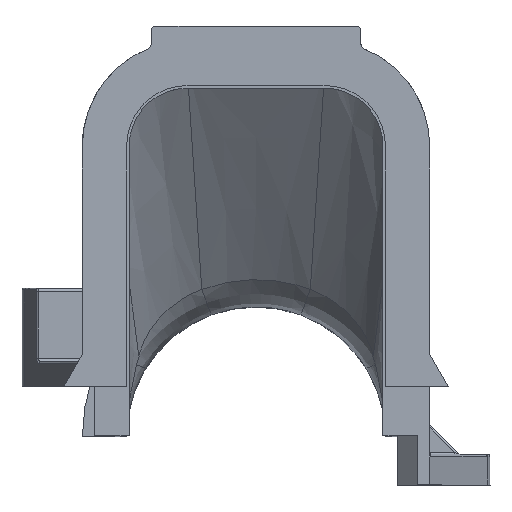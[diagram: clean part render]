
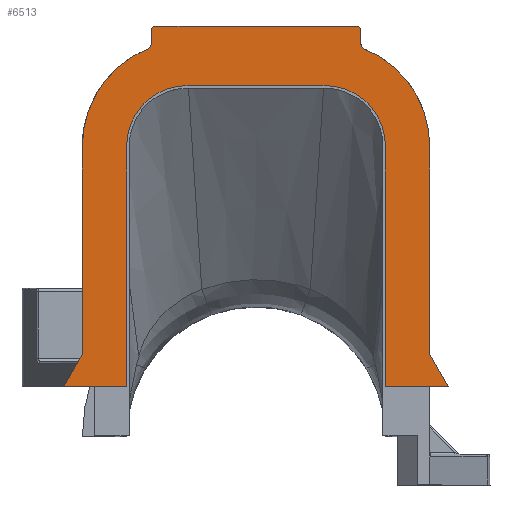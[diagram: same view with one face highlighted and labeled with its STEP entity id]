
A CAD part, top view. The second image highlights one B-rep face of the part: STEP entity #6513.
In plain terms, the highlighted planar face has unit normal (0, 0, 1).
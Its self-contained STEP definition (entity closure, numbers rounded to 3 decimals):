
#1416=CARTESIAN_POINT('',(9.,31.833,0.));
#1417=DIRECTION('',(0.,0.,-1.));
#1418=DIRECTION('',(-0.378,-0.926,0.));
#1419=AXIS2_PLACEMENT_3D('',#1416,#1417,#1418);
#1433=CARTESIAN_POINT('',(-5.6,23.5,0.));
#1434=DIRECTION('',(0.,0.,-1.));
#1435=DIRECTION('',(-1.,0.,0.));
#1436=AXIS2_PLACEMENT_3D('',#1433,#1434,#1435);
#1438=DIRECTION('',(0.,-1.,0.));
#1439=VECTOR('',#1438,1.067);
#1440=CARTESIAN_POINT('',(-8.5,32.9,0.));
#1441=LINE('',#1440,#1439);
#1442=CARTESIAN_POINT('',(-8.2,32.9,0.));
#1443=DIRECTION('',(0.,0.,1.));
#1444=DIRECTION('',(0.,1.,0.));
#1445=AXIS2_PLACEMENT_3D('',#1442,#1443,#1444);
#1447=DIRECTION('',(-1.,0.,0.));
#1448=VECTOR('',#1447,16.4);
#1449=CARTESIAN_POINT('',(8.2,33.2,0.));
#1450=LINE('',#1449,#1448);
#1451=CARTESIAN_POINT('',(8.2,32.9,0.));
#1452=DIRECTION('',(0.,0.,1.));
#1453=DIRECTION('',(1.,0.,0.));
#1454=AXIS2_PLACEMENT_3D('',#1451,#1452,#1453);
#1456=DIRECTION('',(0.,1.,0.));
#1457=VECTOR('',#1456,1.067);
#1458=CARTESIAN_POINT('',(8.5,31.833,0.));
#1459=LINE('',#1458,#1457);
#1460=CARTESIAN_POINT('',(5.6,23.5,0.));
#1461=DIRECTION('',(0.,0.,-1.));
#1462=DIRECTION('',(0.378,0.926,0.));
#1463=AXIS2_PLACEMENT_3D('',#1460,#1461,#1462);
#1465=DIRECTION('',(0.,-1.,0.));
#1466=VECTOR('',#1465,16.902);
#1467=CARTESIAN_POINT('',(14.1,23.5,0.));
#1468=LINE('',#1467,#1466);
#1469=DIRECTION('',(-0.5,0.866,0.));
#1470=VECTOR('',#1469,3.);
#1471=CARTESIAN_POINT('',(15.6,4.,0.));
#1472=LINE('',#1471,#1470);
#1473=DIRECTION('',(-0.5,-0.866,0.));
#1474=VECTOR('',#1473,3.);
#1475=CARTESIAN_POINT('',(-14.1,6.598,0.));
#1476=LINE('',#1475,#1474);
#1477=DIRECTION('',(0.,1.,0.));
#1478=VECTOR('',#1477,16.902);
#1479=CARTESIAN_POINT('',(-14.1,6.598,0.));
#1480=LINE('',#1479,#1478);
#1605=CARTESIAN_POINT('',(-9.,31.833,0.));
#1606=DIRECTION('',(0.,0.,-1.));
#1607=DIRECTION('',(1.,0.,0.));
#1608=AXIS2_PLACEMENT_3D('',#1605,#1606,#1607);
#1711=DIRECTION('',(1.,0.,0.));
#1712=VECTOR('',#1711,5.1);
#1713=CARTESIAN_POINT('',(-15.6,4.,0.));
#1714=LINE('',#1713,#1712);
#1723=DIRECTION('',(1.,0.,0.));
#1724=VECTOR('',#1723,5.1);
#1725=CARTESIAN_POINT('',(10.5,4.,0.));
#1726=LINE('',#1725,#1724);
#1773=DIRECTION('',(0.,1.,0.));
#1774=VECTOR('',#1773,19.5);
#1775=CARTESIAN_POINT('',(-10.5,4.,0.));
#1776=LINE('',#1775,#1774);
#1786=CARTESIAN_POINT('',(-5.6,23.5,0.));
#1787=DIRECTION('',(0.,0.,-1.));
#1788=DIRECTION('',(-1.,0.,0.));
#1789=AXIS2_PLACEMENT_3D('',#1786,#1787,#1788);
#2006=DIRECTION('',(1.,0.,0.));
#2007=VECTOR('',#2006,11.2);
#2008=CARTESIAN_POINT('',(-5.6,28.4,0.));
#2009=LINE('',#2008,#2007);
#2019=CARTESIAN_POINT('',(5.6,23.5,0.));
#2020=DIRECTION('',(0.,0.,-1.));
#2021=DIRECTION('',(0.,1.,0.));
#2022=AXIS2_PLACEMENT_3D('',#2019,#2020,#2021);
#2032=DIRECTION('',(0.,-1.,0.));
#2033=VECTOR('',#2032,19.5);
#2034=CARTESIAN_POINT('',(10.5,23.5,0.));
#2035=LINE('',#2034,#2033);
#3812=CARTESIAN_POINT('',(-10.5,23.5,0.));
#3813=CARTESIAN_POINT('',(-5.6,28.4,0.));
#3814=VERTEX_POINT('',#3812);
#3815=VERTEX_POINT('',#3813);
#3826=CARTESIAN_POINT('',(5.6,28.4,0.));
#3827=VERTEX_POINT('',#3826);
#3840=CARTESIAN_POINT('',(10.5,23.5,0.));
#3841=VERTEX_POINT('',#3840);
#3862=CARTESIAN_POINT('',(-14.1,23.5,0.));
#3863=VERTEX_POINT('',#3862);
#3864=CARTESIAN_POINT('',(14.1,23.5,0.));
#3865=VERTEX_POINT('',#3864);
#3927=CARTESIAN_POINT('',(-10.5,4.,0.));
#3928=VERTEX_POINT('',#3927);
#3929=CARTESIAN_POINT('',(10.5,4.,0.));
#3930=VERTEX_POINT('',#3929);
#4008=CARTESIAN_POINT('',(15.6,4.,0.));
#4010=VERTEX_POINT('',#4008);
#4011=CARTESIAN_POINT('',(-15.6,4.,0.));
#4013=VERTEX_POINT('',#4011);
#4019=CARTESIAN_POINT('',(14.1,6.598,0.));
#4020=VERTEX_POINT('',#4019);
#4025=CARTESIAN_POINT('',(-14.1,6.598,0.));
#4026=VERTEX_POINT('',#4025);
#4213=CARTESIAN_POINT('',(-8.2,33.2,0.));
#4214=CARTESIAN_POINT('',(-8.5,32.9,0.));
#4215=VERTEX_POINT('',#4213);
#4216=VERTEX_POINT('',#4214);
#4221=CARTESIAN_POINT('',(8.5,31.833,0.));
#4223=VERTEX_POINT('',#4221);
#4225=CARTESIAN_POINT('',(8.811,31.37,0.));
#4227=VERTEX_POINT('',#4225);
#4250=CARTESIAN_POINT('',(-8.811,31.37,0.));
#4252=VERTEX_POINT('',#4250);
#4254=CARTESIAN_POINT('',(-8.5,31.833,0.));
#4256=VERTEX_POINT('',#4254);
#4261=CARTESIAN_POINT('',(8.5,32.9,0.));
#4262=CARTESIAN_POINT('',(8.2,33.2,0.));
#4263=VERTEX_POINT('',#4261);
#4264=VERTEX_POINT('',#4262);
#6470=CARTESIAN_POINT('',(-14.1,-4.,0.));
#6471=DIRECTION('',(0.,0.,1.));
#6472=DIRECTION('',(1.,0.,0.));
#6473=AXIS2_PLACEMENT_3D('',#6470,#6471,#6472);
#6474=PLANE('',#6473);
#6476=ORIENTED_EDGE('',*,*,#6475,.T.);
#6478=ORIENTED_EDGE('',*,*,#6477,.F.);
#6480=ORIENTED_EDGE('',*,*,#6479,.F.);
#6482=ORIENTED_EDGE('',*,*,#6481,.F.);
#6484=ORIENTED_EDGE('',*,*,#6483,.F.);
#6486=ORIENTED_EDGE('',*,*,#6485,.F.);
#6487=ORIENTED_EDGE('',*,*,#6462,.F.);
#6488=ORIENTED_EDGE('',*,*,#6451,.F.);
#6489=ORIENTED_EDGE('',*,*,#6437,.T.);
#6490=ORIENTED_EDGE('',*,*,#4642,.T.);
#6492=ORIENTED_EDGE('',*,*,#6491,.F.);
#6494=ORIENTED_EDGE('',*,*,#6493,.F.);
#6496=ORIENTED_EDGE('',*,*,#6495,.F.);
#6498=ORIENTED_EDGE('',*,*,#6497,.F.);
#6500=ORIENTED_EDGE('',*,*,#6499,.F.);
#6502=ORIENTED_EDGE('',*,*,#6501,.F.);
#6504=ORIENTED_EDGE('',*,*,#6503,.F.);
#6506=ORIENTED_EDGE('',*,*,#6505,.F.);
#6508=ORIENTED_EDGE('',*,*,#6507,.F.);
#6510=ORIENTED_EDGE('',*,*,#6509,.T.);
#6511=EDGE_LOOP('',(#6476,#6478,#6480,#6482,#6484,#6486,#6487,#6488,#6489,#6490,
#6492,#6494,#6496,#6498,#6500,#6502,#6504,#6506,#6508,#6510));
#6512=FACE_OUTER_BOUND('',#6511,.F.);
#1420=CIRCLE('',#1419,0.5);
#1437=CIRCLE('',#1436,8.5);
#1446=CIRCLE('',#1445,0.3);
#1455=CIRCLE('',#1454,0.3);
#1464=CIRCLE('',#1463,8.5);
#1609=CIRCLE('',#1608,0.5);
#1790=CIRCLE('',#1789,4.9);
#2023=CIRCLE('',#2022,4.9);
#4642=EDGE_CURVE('',#3865,#4020,#1468,.T.);
#6437=EDGE_CURVE('',#4227,#3865,#1464,.T.);
#6451=EDGE_CURVE('',#4227,#4223,#1420,.T.);
#6462=EDGE_CURVE('',#4223,#4263,#1459,.T.);
#6475=EDGE_CURVE('',#3863,#4252,#1437,.T.);
#6477=EDGE_CURVE('',#4256,#4252,#1609,.T.);
#6479=EDGE_CURVE('',#4216,#4256,#1441,.T.);
#6481=EDGE_CURVE('',#4215,#4216,#1446,.T.);
#6483=EDGE_CURVE('',#4264,#4215,#1450,.T.);
#6485=EDGE_CURVE('',#4263,#4264,#1455,.T.);
#6491=EDGE_CURVE('',#4010,#4020,#1472,.T.);
#6493=EDGE_CURVE('',#3930,#4010,#1726,.T.);
#6495=EDGE_CURVE('',#3841,#3930,#2035,.T.);
#6497=EDGE_CURVE('',#3827,#3841,#2023,.T.);
#6499=EDGE_CURVE('',#3815,#3827,#2009,.T.);
#6501=EDGE_CURVE('',#3814,#3815,#1790,.T.);
#6503=EDGE_CURVE('',#3928,#3814,#1776,.T.);
#6505=EDGE_CURVE('',#4013,#3928,#1714,.T.);
#6507=EDGE_CURVE('',#4026,#4013,#1476,.T.);
#6509=EDGE_CURVE('',#4026,#3863,#1480,.T.);
#6513=ADVANCED_FACE('',(#6512),#6474,.T.);
